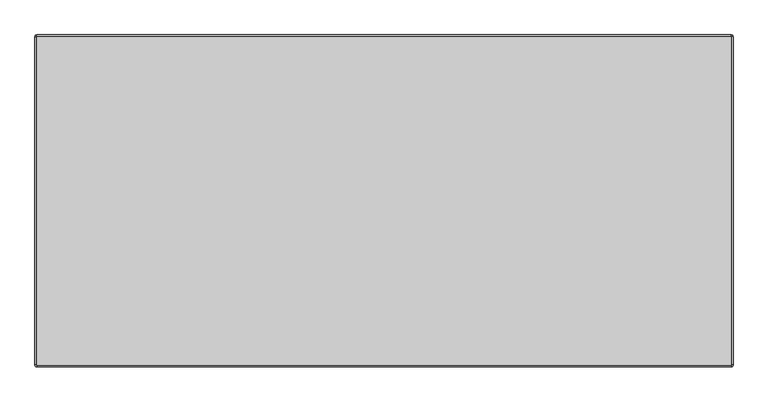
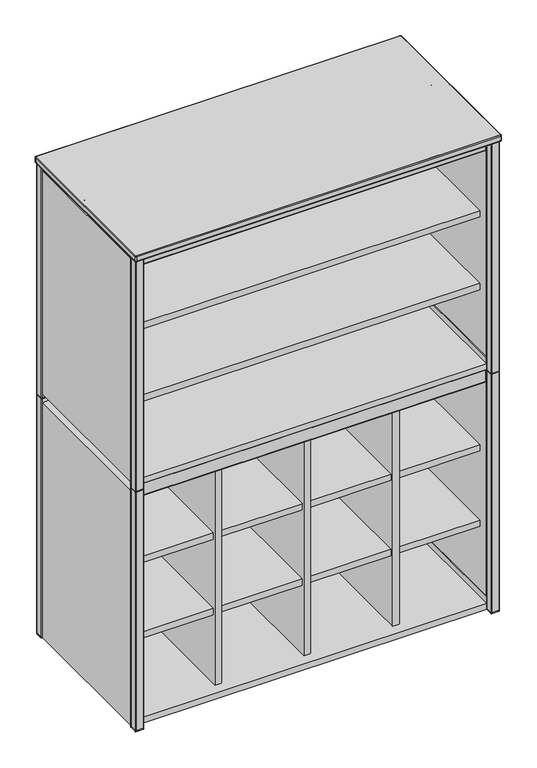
"""IFC4 building model written with IfcOpenShell, lengths in millimetres: furniture geometry, SmithSystem_AM_Storage_Education_Constellate_Stacking_DoubleMidCluster : Upper Shelves + Lower Cubbies."""

from ifc_helpers import new_model, si_unit, point, frame, frame_2d, origin, place, context, project, spatial, polyline, circle_curve, ellipse_curve, trimmed, segment, composite_curve, outline, extrude, source, transform, mapped, element, save
from ifc_brep_helpers import plane_surface, cylinder_surface, revolved_surface, advanced_brep


def furniture_dcc7bf50(model_context):
    return source(origin(), model_context, "Body", "SolidModel", [
        extrude(outline(polyline([(508.0, 218.44), (508.0, -187.96), (-508.0, -187.96), (-508.0, 218.44), (508.0, 218.44)])), frame((0.0, 0.0, 1240.79), z_axis=(0.0, 0.0, 1.0), x_axis=(1.0, 0.0, 0.0)), (0.0, 0.0, 1.0), 19.05),
        extrude(outline(composite_curve([segment(trimmed(circle_curve(frame_2d((-218.44, 1466.85)), 2.54), [point((-218.44, 1464.31))], [point((-220.98, 1466.85))], False, "CARTESIAN"), True, "CONTINUOUS"), segment(polyline([(-220.98, 1466.85), (-220.98, 1504.95), (-195.58, 1504.95), (-195.58, 1466.85)]), True, "CONTINUOUS"), segment(trimmed(circle_curve(frame_2d((-198.12, 1466.85)), 2.54), [point((-195.58, 1466.85))], [point((-198.12, 1464.31))], False, "CARTESIAN"), True, "CONTINUOUS"), segment(polyline([(-198.12, 1464.31), (-218.44, 1464.31)]), True, "CONTINUOUS")], self_intersect=False)), frame((-508.0, 0.0, 0.0), z_axis=(1.0, 0.0, 0.0), x_axis=(0.0, 1.0, 0.0)), (0.0, 0.0, 1.0), 1016.0),
        extrude(outline(composite_curve([segment(polyline([(-220.98, 791.21), (-195.58, 791.21), (-195.58, 755.65)]), True, "CONTINUOUS"), segment(trimmed(circle_curve(frame_2d((-198.12, 755.65)), 2.54), [point((-195.58, 755.65))], [point((-198.12, 753.11))], False, "CARTESIAN"), True, "CONTINUOUS"), segment(polyline([(-198.12, 753.11), (-218.44, 753.11)]), True, "CONTINUOUS"), segment(trimmed(circle_curve(frame_2d((-218.44, 755.65)), 2.54), [point((-218.44, 753.11))], [point((-220.98, 755.65))], False, "CARTESIAN"), True, "CONTINUOUS"), segment(polyline([(-220.98, 755.65), (-220.98, 791.21)]), True, "CONTINUOUS")], self_intersect=False)), frame((-508.0, 0.0, 0.0), z_axis=(1.0, 0.0, 0.0), x_axis=(0.0, 1.0, 0.0)), (0.0, 0.0, 1.0), 1016.0),
        extrude(outline(polyline([(-9.525, -187.96), (-249.2375, -187.96), (-249.2375, 226.06), (-9.525, 226.06), (-9.525, -187.96)])), frame((0.0, 0.0, 521.1191), z_axis=(0.0, 0.0, 1.0), x_axis=(1.0, 0.0, 0.0)), (0.0, 0.0, 1.0), 19.05),
        extrude(outline(polyline([(249.2375, -187.96), (9.525, -187.96), (9.525, 226.06), (249.2375, 226.06), (249.2375, -187.96)])), frame((0.0, 0.0, 521.1191), z_axis=(0.0, 0.0, 1.0), x_axis=(1.0, 0.0, 0.0)), (0.0, 0.0, 1.0), 19.05),
        extrude(outline(polyline([(508.0, -187.96), (268.2875, -187.96), (268.2875, 226.06), (508.0, 226.06), (508.0, -187.96)])), frame((0.0, 0.0, 521.1191), z_axis=(0.0, 0.0, 1.0), x_axis=(1.0, 0.0, 0.0)), (0.0, 0.0, 1.0), 19.05),
        extrude(outline(polyline([(-268.2875, -187.96), (-508.0, -187.96), (-508.0, 226.06), (-268.2875, 226.06), (-268.2875, -187.96)])), frame((0.0, 0.0, 521.1191), z_axis=(0.0, 0.0, 1.0), x_axis=(1.0, 0.0, 0.0)), (0.0, 0.0, 1.0), 19.05),
        extrude(outline(polyline([(508.0, 218.44), (508.0, -187.96), (-508.0, -187.96), (-508.0, 218.44), (508.0, 218.44)])), frame((0.0, 0.0, 1017.27), z_axis=(0.0, 0.0, 1.0), x_axis=(1.0, 0.0, 0.0)), (0.0, 0.0, 1.0), 19.05),
        extrude(outline(polyline([(-505.46, 228.6), (-505.46, 247.65), (505.46, 247.65), (505.46, 228.6), (-505.46, 228.6)])), frame((0.0, 0.0, 793.75), z_axis=(0.0, 0.0, 1.0), x_axis=(1.0, 0.0, 0.0)), (0.0, 0.0, 1.0), 711.2),
        extrude(outline(composite_curve([segment(polyline([(-528.32, -223.52), (-508.0, -223.52)]), True, "CONTINUOUS"), segment(trimmed(circle_curve(frame_2d((-508.0, -226.06)), 2.54), [point((-508.0, -223.52))], [point((-505.46, -226.06))], False, "CARTESIAN"), True, "CONTINUOUS"), segment(polyline([(-505.46, -226.06), (-505.46, -246.38)]), True, "CONTINUOUS"), segment(trimmed(circle_curve(frame_2d((-508.0, -246.38)), 2.54), [point((-505.46, -246.38))], [point((-508.0, -248.92))], False, "CARTESIAN"), True, "CONTINUOUS"), segment(polyline([(-508.0, -248.92), (-528.32, -248.92)]), True, "CONTINUOUS"), segment(trimmed(circle_curve(frame_2d((-528.32, -246.38)), 2.54), [point((-528.32, -248.92))], [point((-530.86, -246.38))], False, "CARTESIAN"), True, "CONTINUOUS"), segment(polyline([(-530.86, -246.38), (-530.86, -226.06)]), True, "CONTINUOUS"), segment(trimmed(circle_curve(frame_2d((-528.32, -226.06)), 2.54), [point((-530.86, -226.06))], [point((-528.32, -223.52))], False, "CARTESIAN"), True, "CONTINUOUS")], self_intersect=False)), frame((0.0, 0.0, 796.29), z_axis=(0.0, 0.0, 1.0), x_axis=(1.0, 0.0, 0.0)), (0.0, 0.0, 1.0), 708.66),
        extrude(outline(composite_curve([segment(polyline([(530.86, 248.92), (530.86, 228.6)]), True, "CONTINUOUS"), segment(trimmed(circle_curve(frame_2d((528.32, 228.6)), 2.54), [point((530.86, 228.6))], [point((528.32, 226.06))], False, "CARTESIAN"), True, "CONTINUOUS"), segment(polyline([(528.32, 226.06), (508.0, 226.06)]), True, "CONTINUOUS"), segment(trimmed(circle_curve(frame_2d((508.0, 228.6)), 2.54), [point((508.0, 226.06))], [point((505.46, 228.6))], False, "CARTESIAN"), True, "CONTINUOUS"), segment(polyline([(505.46, 228.6), (505.46, 248.92)]), True, "CONTINUOUS"), segment(trimmed(circle_curve(frame_2d((508.0, 248.92)), 2.54), [point((505.46, 248.92))], [point((508.0, 251.46))], False, "CARTESIAN"), True, "CONTINUOUS"), segment(polyline([(508.0, 251.46), (528.32, 251.46)]), True, "CONTINUOUS"), segment(trimmed(circle_curve(frame_2d((528.32, 248.92)), 2.54), [point((528.32, 251.46))], [point((530.86, 248.92))], False, "CARTESIAN"), True, "CONTINUOUS")], self_intersect=False)), frame((0.0, 0.0, 796.29), z_axis=(0.0, 0.0, 1.0), x_axis=(1.0, 0.0, 0.0)), (0.0, 0.0, 1.0), 708.66),
        extrude(outline(composite_curve([segment(trimmed(circle_curve(frame_2d((528.32, -226.06)), 2.54), [point((528.32, -223.52))], [point((530.86, -226.06))], False, "CARTESIAN"), True, "CONTINUOUS"), segment(polyline([(530.86, -226.06), (530.86, -246.38)]), True, "CONTINUOUS"), segment(trimmed(circle_curve(frame_2d((528.32, -246.38)), 2.54), [point((530.86, -246.38))], [point((528.32, -248.92))], False, "CARTESIAN"), True, "CONTINUOUS"), segment(polyline([(528.32, -248.92), (508.0, -248.92)]), True, "CONTINUOUS"), segment(trimmed(circle_curve(frame_2d((508.0, -246.38)), 2.54), [point((508.0, -248.92))], [point((505.46, -246.38))], False, "CARTESIAN"), True, "CONTINUOUS"), segment(polyline([(505.46, -246.38), (505.46, -226.06)]), True, "CONTINUOUS"), segment(trimmed(circle_curve(frame_2d((508.0, -226.06)), 2.54), [point((505.46, -226.06))], [point((508.0, -223.52))], False, "CARTESIAN"), True, "CONTINUOUS"), segment(polyline([(508.0, -223.52), (528.32, -223.52)]), True, "CONTINUOUS")], self_intersect=False)), frame((0.0, 0.0, 796.29), z_axis=(0.0, 0.0, 1.0), x_axis=(1.0, 0.0, 0.0)), (0.0, 0.0, 1.0), 708.66),
        extrude(outline(composite_curve([segment(trimmed(circle_curve(frame_2d((-528.32, 248.92)), 2.54), [point((-530.86, 248.92))], [point((-528.32, 251.46))], False, "CARTESIAN"), True, "CONTINUOUS"), segment(polyline([(-528.32, 251.46), (-508.0, 251.46)]), True, "CONTINUOUS"), segment(trimmed(circle_curve(frame_2d((-508.0, 248.92)), 2.54), [point((-508.0, 251.46))], [point((-505.46, 248.92))], False, "CARTESIAN"), True, "CONTINUOUS"), segment(polyline([(-505.46, 248.92), (-505.46, 228.6)]), True, "CONTINUOUS"), segment(trimmed(circle_curve(frame_2d((-508.0, 228.6)), 2.54), [point((-505.46, 228.6))], [point((-508.0, 226.06))], False, "CARTESIAN"), True, "CONTINUOUS"), segment(polyline([(-508.0, 226.06), (-528.32, 226.06)]), True, "CONTINUOUS"), segment(trimmed(circle_curve(frame_2d((-528.32, 228.6)), 2.54), [point((-528.32, 226.06))], [point((-530.86, 228.6))], False, "CARTESIAN"), True, "CONTINUOUS"), segment(polyline([(-530.86, 228.6), (-530.86, 248.92)]), True, "CONTINUOUS")], self_intersect=False)), frame((0.0, 0.0, 796.29), z_axis=(0.0, 0.0, 1.0), x_axis=(1.0, 0.0, 0.0)), (0.0, 0.0, 1.0), 708.66),
        extrude(outline(composite_curve([segment(polyline([(-528.32, -223.52), (-508.0, -223.52)]), True, "CONTINUOUS"), segment(trimmed(circle_curve(frame_2d((-508.0, -226.06)), 2.54), [point((-508.0, -223.52))], [point((-505.46, -226.06))], False, "CARTESIAN"), True, "CONTINUOUS"), segment(polyline([(-505.46, -226.06), (-505.46, -246.38)]), True, "CONTINUOUS"), segment(trimmed(circle_curve(frame_2d((-508.0, -246.38)), 2.54), [point((-505.46, -246.38))], [point((-508.0, -248.92))], False, "CARTESIAN"), True, "CONTINUOUS"), segment(polyline([(-508.0, -248.92), (-528.32, -248.92)]), True, "CONTINUOUS"), segment(trimmed(circle_curve(frame_2d((-528.32, -246.38)), 2.54), [point((-528.32, -248.92))], [point((-530.86, -246.38))], False, "CARTESIAN"), True, "CONTINUOUS"), segment(polyline([(-530.86, -246.38), (-530.86, -226.06)]), True, "CONTINUOUS"), segment(trimmed(circle_curve(frame_2d((-528.32, -226.06)), 2.54), [point((-530.86, -226.06))], [point((-528.32, -223.52))], False, "CARTESIAN"), True, "CONTINUOUS")], self_intersect=False)), frame((0.0, 0.0, 793.75), z_axis=(0.0, 0.0, 1.0), x_axis=(1.0, 0.0, 0.0)), (0.0, 0.0, 1.0), 2.54),
        extrude(outline(composite_curve([segment(polyline([(530.86, 248.92), (530.86, 228.6)]), True, "CONTINUOUS"), segment(trimmed(circle_curve(frame_2d((528.32, 228.6)), 2.54), [point((530.86, 228.6))], [point((528.32, 226.06))], False, "CARTESIAN"), True, "CONTINUOUS"), segment(polyline([(528.32, 226.06), (508.0, 226.06)]), True, "CONTINUOUS"), segment(trimmed(circle_curve(frame_2d((508.0, 228.6)), 2.54), [point((508.0, 226.06))], [point((505.46, 228.6))], False, "CARTESIAN"), True, "CONTINUOUS"), segment(polyline([(505.46, 228.6), (505.46, 248.92)]), True, "CONTINUOUS"), segment(trimmed(circle_curve(frame_2d((508.0, 248.92)), 2.54), [point((505.46, 248.92))], [point((508.0, 251.46))], False, "CARTESIAN"), True, "CONTINUOUS"), segment(polyline([(508.0, 251.46), (528.32, 251.46)]), True, "CONTINUOUS"), segment(trimmed(circle_curve(frame_2d((528.32, 248.92)), 2.54), [point((528.32, 251.46))], [point((530.86, 248.92))], False, "CARTESIAN"), True, "CONTINUOUS")], self_intersect=False)), frame((0.0, 0.0, 793.75), z_axis=(0.0, 0.0, 1.0), x_axis=(1.0, 0.0, 0.0)), (0.0, 0.0, 1.0), 2.54),
        extrude(outline(composite_curve([segment(trimmed(circle_curve(frame_2d((528.32, -226.06)), 2.54), [point((528.32, -223.52))], [point((530.86, -226.06))], False, "CARTESIAN"), True, "CONTINUOUS"), segment(polyline([(530.86, -226.06), (530.86, -246.38)]), True, "CONTINUOUS"), segment(trimmed(circle_curve(frame_2d((528.32, -246.38)), 2.54), [point((530.86, -246.38))], [point((528.32, -248.92))], False, "CARTESIAN"), True, "CONTINUOUS"), segment(polyline([(528.32, -248.92), (508.0, -248.92)]), True, "CONTINUOUS"), segment(trimmed(circle_curve(frame_2d((508.0, -246.38)), 2.54), [point((508.0, -248.92))], [point((505.46, -246.38))], False, "CARTESIAN"), True, "CONTINUOUS"), segment(polyline([(505.46, -246.38), (505.46, -226.06)]), True, "CONTINUOUS"), segment(trimmed(circle_curve(frame_2d((508.0, -226.06)), 2.54), [point((505.46, -226.06))], [point((508.0, -223.52))], False, "CARTESIAN"), True, "CONTINUOUS"), segment(polyline([(508.0, -223.52), (528.32, -223.52)]), True, "CONTINUOUS")], self_intersect=False)), frame((0.0, 0.0, 793.75), z_axis=(0.0, 0.0, 1.0), x_axis=(1.0, 0.0, 0.0)), (0.0, 0.0, 1.0), 2.54),
        extrude(outline(composite_curve([segment(trimmed(circle_curve(frame_2d((-528.32, 248.92)), 2.54), [point((-530.86, 248.92))], [point((-528.32, 251.46))], False, "CARTESIAN"), True, "CONTINUOUS"), segment(polyline([(-528.32, 251.46), (-508.0, 251.46)]), True, "CONTINUOUS"), segment(trimmed(circle_curve(frame_2d((-508.0, 248.92)), 2.54), [point((-508.0, 251.46))], [point((-505.46, 248.92))], False, "CARTESIAN"), True, "CONTINUOUS"), segment(polyline([(-505.46, 248.92), (-505.46, 228.6)]), True, "CONTINUOUS"), segment(trimmed(circle_curve(frame_2d((-508.0, 228.6)), 2.54), [point((-505.46, 228.6))], [point((-508.0, 226.06))], False, "CARTESIAN"), True, "CONTINUOUS"), segment(polyline([(-508.0, 226.06), (-528.32, 226.06)]), True, "CONTINUOUS"), segment(trimmed(circle_curve(frame_2d((-528.32, 228.6)), 2.54), [point((-528.32, 226.06))], [point((-530.86, 228.6))], False, "CARTESIAN"), True, "CONTINUOUS"), segment(polyline([(-530.86, 228.6), (-530.86, 248.92)]), True, "CONTINUOUS")], self_intersect=False)), frame((0.0, 0.0, 793.75), z_axis=(0.0, 0.0, 1.0), x_axis=(1.0, 0.0, 0.0)), (0.0, 0.0, 1.0), 2.54),
        extrude(outline(composite_curve([segment(polyline([(-530.86, -250.952), (-530.86, 250.952)]), True, "CONTINUOUS"), segment(trimmed(circle_curve(frame_2d((-530.352, 250.952)), 0.508), [point((-530.86, 250.952))], [point((-530.352, 251.46))], False, "CARTESIAN"), True, "CONTINUOUS"), segment(polyline([(-530.352, 251.46), (530.352, 251.46)]), True, "CONTINUOUS"), segment(trimmed(circle_curve(frame_2d((530.352, 250.952)), 0.508), [point((530.352, 251.46))], [point((530.86, 250.952))], False, "CARTESIAN"), True, "CONTINUOUS"), segment(polyline([(530.86, 250.952), (530.86, -250.952)]), True, "CONTINUOUS"), segment(trimmed(circle_curve(frame_2d((530.352, -250.952)), 0.508), [point((530.86, -250.952))], [point((530.352, -251.46))], False, "CARTESIAN"), True, "CONTINUOUS"), segment(polyline([(530.352, -251.46), (-530.352, -251.46)]), True, "CONTINUOUS"), segment(trimmed(circle_curve(frame_2d((-530.352, -250.952)), 0.508), [point((-530.352, -251.46))], [point((-530.86, -250.952))], False, "CARTESIAN"), True, "CONTINUOUS")], self_intersect=False)), frame((0.0, 0.0, 1504.95), z_axis=(0.0, 0.0, 1.0), x_axis=(1.0, 0.0, 0.0)), (0.0, 0.0, 1.0), 19.05),
        advanced_brep(
        [(-530.352, -251.46, 1524.0), (-530.86, -250.952, 1524.0), (-533.4, -250.952, 1521.46), (-530.352, -254.0, 1521.46), (-530.352, -251.46, 1504.95), (-530.86, -250.952, 1504.95), (-530.352, -254.0, 1507.49), (-533.4, -250.952, 1507.49), (530.352, -254.0, 1521.46), (530.352, -251.46, 1524.0), (530.352, -251.46, 1504.95), (530.352, -254.0, 1507.49), (530.86, -250.952, 1524.0), (533.4, -250.952, 1521.46), (530.86, -250.952, 1504.95), (533.4, -250.952, 1507.49), (533.4, 250.952, 1521.46), (530.86, 250.952, 1524.0), (530.86, 250.952, 1504.95), (533.4, 250.952, 1507.49), (530.352, 251.46, 1524.0), (530.352, 254.0, 1521.46), (530.352, 251.46, 1504.95), (530.352, 254.0, 1507.49), (-530.352, 254.0, 1521.46), (-530.352, 251.46, 1524.0), (-530.352, 251.46, 1504.95), (-530.352, 254.0, 1507.49), (-530.86, 250.952, 1524.0), (-533.4, 250.952, 1521.46), (-530.86, 250.952, 1504.95), (-533.4, 250.952, 1507.49)],
        [
            (0, 1, circle_curve(frame((-530.352, -250.952, 1524.0), z_axis=(0.0, 0.0, -1.0), x_axis=(-1.0, 0.0, 0.0)), 0.508)),
            (1, 2, circle_curve(frame((-530.86, -250.952, 1521.46), z_axis=(0.0, -1.0, 0.0), x_axis=(1.0, 0.0, 0.0)), 2.54)),
            (2, 3, circle_curve(frame((-530.352, -250.952, 1521.46), z_axis=(0.0, 0.0, 1.0), x_axis=(-1.0, 0.0, 0.0)), 3.048)),
            (3, 0, circle_curve(frame((-530.352, -251.46, 1521.46), z_axis=(-1.0, 0.0, 0.0), x_axis=(0.0, 1.0, 0.0)), 2.54)),
            (4, 5, circle_curve(frame((-530.352, -250.952, 1504.95), z_axis=(0.0, 0.0, -1.0), x_axis=(-1.0, 0.0, 0.0)), 0.508)),
            (5, 1),
            (0, 4),
            (6, 7, circle_curve(frame((-530.352, -250.952, 1507.49), z_axis=(0.0, 0.0, -1.0), x_axis=(-1.0, 0.0, 0.0)), 3.048)),
            (7, 5, circle_curve(frame((-530.86, -250.952, 1507.49), z_axis=(0.0, -1.0, 0.0), x_axis=(1.0, 0.0, 0.0)), 2.54)),
            (4, 6, circle_curve(frame((-530.352, -251.46, 1507.49), z_axis=(-1.0, 0.0, 0.0), x_axis=(0.0, 1.0, 0.0)), 2.54)),
            (2, 7),
            (6, 3),
            (3, 8),
            (8, 9, circle_curve(frame((530.352, -251.46, 1521.46), z_axis=(-1.0, 0.0, 0.0), x_axis=(0.0, 1.0, 0.0)), 2.54)),
            (9, 0),
            (9, 10),
            (10, 4),
            (10, 11, circle_curve(frame((530.352, -251.46, 1507.49), z_axis=(-1.0, 0.0, 0.0), x_axis=(0.0, 1.0, 0.0)), 2.54)),
            (11, 6),
            (11, 8),
            (12, 9, circle_curve(frame((530.352, -250.952, 1524.0), z_axis=(0.0, 0.0, -1.0), x_axis=(0.0, -1.0, 0.0)), 0.508)),
            (8, 13, circle_curve(frame((530.352, -250.952, 1521.46), z_axis=(0.0, 0.0, 1.0), x_axis=(0.0, -1.0, 0.0)), 3.048)),
            (13, 12, circle_curve(frame((530.86, -250.952, 1521.46), z_axis=(0.0, -1.0, 0.0), x_axis=(-1.0, 0.0, 0.0)), 2.54)),
            (14, 10, circle_curve(frame((530.352, -250.952, 1504.95), z_axis=(0.0, 0.0, -1.0), x_axis=(0.0, -1.0, 0.0)), 0.508)),
            (12, 14),
            (15, 11, circle_curve(frame((530.352, -250.952, 1507.49), z_axis=(0.0, 0.0, -1.0), x_axis=(0.0, -1.0, 0.0)), 3.048)),
            (14, 15, circle_curve(frame((530.86, -250.952, 1507.49), z_axis=(0.0, -1.0, 0.0), x_axis=(-1.0, 0.0, 0.0)), 2.54)),
            (15, 13),
            (13, 16),
            (16, 17, circle_curve(frame((530.86, 250.952, 1521.46), z_axis=(0.0, -1.0, 0.0), x_axis=(-1.0, 0.0, 0.0)), 2.54)),
            (17, 12),
            (17, 18),
            (18, 14),
            (18, 19, circle_curve(frame((530.86, 250.952, 1507.49), z_axis=(0.0, -1.0, 0.0), x_axis=(-1.0, 0.0, 0.0)), 2.54)),
            (19, 15),
            (19, 16),
            (20, 17, circle_curve(frame((530.352, 250.952, 1524.0), z_axis=(0.0, 0.0, -1.0), x_axis=(1.0, 0.0, 0.0)), 0.508)),
            (16, 21, circle_curve(frame((530.352, 250.952, 1521.46), z_axis=(0.0, 0.0, 1.0), x_axis=(1.0, 0.0, 0.0)), 3.048)),
            (21, 20, circle_curve(frame((530.352, 251.46, 1521.46), z_axis=(1.0, 0.0, 0.0), x_axis=(0.0, -1.0, 0.0)), 2.54)),
            (22, 18, circle_curve(frame((530.352, 250.952, 1504.95), z_axis=(0.0, 0.0, -1.0), x_axis=(1.0, 0.0, 0.0)), 0.508)),
            (20, 22),
            (23, 19, circle_curve(frame((530.352, 250.952, 1507.49), z_axis=(0.0, 0.0, -1.0), x_axis=(1.0, 0.0, 0.0)), 3.048)),
            (22, 23, circle_curve(frame((530.352, 251.46, 1507.49), z_axis=(1.0, 0.0, 0.0), x_axis=(0.0, -1.0, 0.0)), 2.54)),
            (23, 21),
            (21, 24),
            (24, 25, circle_curve(frame((-530.352, 251.46, 1521.46), z_axis=(1.0, 0.0, 0.0), x_axis=(0.0, -1.0, 0.0)), 2.54)),
            (25, 20),
            (25, 26),
            (26, 22),
            (26, 27, circle_curve(frame((-530.352, 251.46, 1507.49), z_axis=(1.0, 0.0, 0.0), x_axis=(0.0, -1.0, 0.0)), 2.54)),
            (27, 23),
            (27, 24),
            (28, 25, circle_curve(frame((-530.352, 250.952, 1524.0), z_axis=(0.0, 0.0, -1.0), x_axis=(0.0, 1.0, 0.0)), 0.508)),
            (24, 29, circle_curve(frame((-530.352, 250.952, 1521.46), z_axis=(0.0, 0.0, 1.0), x_axis=(0.0, 1.0, 0.0)), 3.048)),
            (29, 28, circle_curve(frame((-530.86, 250.952, 1521.46), z_axis=(0.0, 1.0, 0.0), x_axis=(1.0, 0.0, 0.0)), 2.54)),
            (30, 26, circle_curve(frame((-530.352, 250.952, 1504.95), z_axis=(0.0, 0.0, -1.0), x_axis=(0.0, 1.0, 0.0)), 0.508)),
            (28, 30),
            (31, 27, circle_curve(frame((-530.352, 250.952, 1507.49), z_axis=(0.0, 0.0, -1.0), x_axis=(0.0, 1.0, 0.0)), 3.048)),
            (30, 31, circle_curve(frame((-530.86, 250.952, 1507.49), z_axis=(0.0, 1.0, 0.0), x_axis=(1.0, 0.0, 0.0)), 2.54)),
            (31, 29),
            (29, 2),
            (1, 28),
            (5, 30),
            (7, 31),
        ],
        [
            revolved_surface(trimmed(ellipse_curve(frame((-530.86, -250.952, 1521.46), z_axis=(0.0, 1.0, 0.0), x_axis=(1.0, 0.0, 0.0)), 2.54, 2.54), [point((-533.4, -250.952, 1521.46))], [point((-530.86, -250.952, 1524.0))], True, "CARTESIAN"), (-530.352, -250.952, 0.0), (0.0, 0.0, 1.0)),
            revolved_surface(polyline([(-530.86, -250.952, 1524.0), (-530.86, -250.952, 1504.95)]), (-530.352, -250.952, 0.0), (0.0, 0.0, 1.0)),
            revolved_surface(trimmed(ellipse_curve(frame((-530.86, -250.952, 1507.49), z_axis=(0.0, 1.0, 0.0), x_axis=(1.0, 0.0, 0.0)), 2.54, 2.54), [point((-530.86, -250.952, 1504.95))], [point((-533.4, -250.952, 1507.49))], True, "CARTESIAN"), (-530.352, -250.952, 0.0), (0.0, 0.0, 1.0)),
            cylinder_surface(frame((-530.352, -250.952, 0.0), z_axis=(0.0, 0.0, 1.0), x_axis=(-1.0, 0.0, 0.0)), 3.048),
            cylinder_surface(frame((-530.352, -251.46, 1521.46), z_axis=(-1.0, 0.0, 0.0), x_axis=(0.0, 1.0, 0.0)), 2.54),
            plane_surface(frame((-530.352, -251.46, 1524.0), z_axis=(0.0, 1.0, 0.0), x_axis=(1.0, 0.0, 0.0))),
            cylinder_surface(frame((-530.352, -251.46, 1507.49), z_axis=(-1.0, 0.0, 0.0), x_axis=(0.0, 1.0, 0.0)), 2.54),
            plane_surface(frame((-530.352, -254.0, 1507.49), z_axis=(0.0, -1.0, 0.0), x_axis=(1.0, 0.0, 0.0))),
            revolved_surface(trimmed(ellipse_curve(frame((530.352, -251.46, 1521.46), z_axis=(-1.0, 0.0, 0.0), x_axis=(0.0, 1.0, 0.0)), 2.54, 2.54), [point((530.352, -254.0, 1521.46))], [point((530.352, -251.46, 1524.0))], True, "CARTESIAN"), (530.352, -250.952, 0.0), (0.0, 0.0, 1.0)),
            revolved_surface(polyline([(530.352, -251.46, 1524.0), (530.352, -251.46, 1504.95)]), (530.352, -250.952, 0.0), (0.0, 0.0, 1.0)),
            revolved_surface(trimmed(ellipse_curve(frame((530.352, -251.46, 1507.49), z_axis=(-1.0, 0.0, 0.0), x_axis=(0.0, 1.0, 0.0)), 2.54, 2.54), [point((530.352, -251.46, 1504.95))], [point((530.352, -254.0, 1507.49))], True, "CARTESIAN"), (530.352, -250.952, 0.0), (0.0, 0.0, 1.0)),
            cylinder_surface(frame((530.352, -250.952, 0.0), z_axis=(0.0, 0.0, 1.0), x_axis=(0.0, -1.0, 0.0)), 3.048),
            cylinder_surface(frame((530.86, -250.952, 1521.46), z_axis=(0.0, -1.0, 0.0), x_axis=(-1.0, 0.0, 0.0)), 2.54),
            plane_surface(frame((530.86, -250.952, 1524.0), z_axis=(-1.0, 0.0, 0.0), x_axis=(0.0, 1.0, 0.0))),
            cylinder_surface(frame((530.86, -250.952, 1507.49), z_axis=(0.0, -1.0, 0.0), x_axis=(-1.0, 0.0, 0.0)), 2.54),
            plane_surface(frame((533.4, -250.952, 1507.49), z_axis=(1.0, 0.0, 0.0), x_axis=(0.0, 1.0, 0.0))),
            revolved_surface(trimmed(ellipse_curve(frame((530.86, 250.952, 1521.46), z_axis=(0.0, -1.0, 0.0), x_axis=(-1.0, 0.0, 0.0)), 2.54, 2.54), [point((533.4, 250.952, 1521.46))], [point((530.86, 250.952, 1524.0))], True, "CARTESIAN"), (530.352, 250.952, 0.0), (0.0, 0.0, 1.0)),
            revolved_surface(polyline([(530.86, 250.952, 1524.0), (530.86, 250.952, 1504.95)]), (530.352, 250.952, 0.0), (0.0, 0.0, 1.0)),
            revolved_surface(trimmed(ellipse_curve(frame((530.86, 250.952, 1507.49), z_axis=(0.0, -1.0, 0.0), x_axis=(-1.0, 0.0, 0.0)), 2.54, 2.54), [point((530.86, 250.952, 1504.95))], [point((533.4, 250.952, 1507.49))], True, "CARTESIAN"), (530.352, 250.952, 0.0), (0.0, 0.0, 1.0)),
            cylinder_surface(frame((530.352, 250.952, 0.0), z_axis=(0.0, 0.0, 1.0), x_axis=(1.0, 0.0, 0.0)), 3.048),
            cylinder_surface(frame((530.352, 251.46, 1521.46), z_axis=(1.0, 0.0, 0.0), x_axis=(0.0, -1.0, 0.0)), 2.54),
            plane_surface(frame((530.352, 251.46, 1524.0), z_axis=(0.0, -1.0, 0.0), x_axis=(-1.0, 0.0, 0.0))),
            cylinder_surface(frame((530.352, 251.46, 1507.49), z_axis=(1.0, 0.0, 0.0), x_axis=(0.0, -1.0, 0.0)), 2.54),
            plane_surface(frame((530.352, 254.0, 1507.49), z_axis=(0.0, 1.0, 0.0), x_axis=(-1.0, 0.0, 0.0))),
            revolved_surface(trimmed(ellipse_curve(frame((-530.352, 251.46, 1521.46), z_axis=(1.0, 0.0, 0.0), x_axis=(0.0, -1.0, 0.0)), 2.54, 2.54), [point((-530.352, 254.0, 1521.46))], [point((-530.352, 251.46, 1524.0))], True, "CARTESIAN"), (-530.352, 250.952, 0.0), (0.0, 0.0, 1.0)),
            revolved_surface(polyline([(-530.352, 251.46, 1524.0), (-530.352, 251.46, 1504.95)]), (-530.352, 250.952, 0.0), (0.0, 0.0, 1.0)),
            revolved_surface(trimmed(ellipse_curve(frame((-530.352, 251.46, 1507.49), z_axis=(1.0, 0.0, 0.0), x_axis=(0.0, -1.0, 0.0)), 2.54, 2.54), [point((-530.352, 251.46, 1504.95))], [point((-530.352, 254.0, 1507.49))], True, "CARTESIAN"), (-530.352, 250.952, 0.0), (0.0, 0.0, 1.0)),
            cylinder_surface(frame((-530.352, 250.952, 0.0), z_axis=(0.0, 0.0, 1.0), x_axis=(0.0, 1.0, 0.0)), 3.048),
            cylinder_surface(frame((-530.86, 250.952, 1521.46), z_axis=(0.0, 1.0, 0.0), x_axis=(1.0, 0.0, 0.0)), 2.54),
            plane_surface(frame((-530.86, 250.952, 1524.0), z_axis=(1.0, 0.0, 0.0), x_axis=(0.0, -1.0, 0.0))),
            cylinder_surface(frame((-530.86, 250.952, 1507.49), z_axis=(0.0, 1.0, 0.0), x_axis=(1.0, 0.0, 0.0)), 2.54),
            plane_surface(frame((-533.4, 250.952, 1507.49), z_axis=(-1.0, 0.0, 0.0), x_axis=(0.0, -1.0, 0.0))),
        ],
        [
            (0, [[1, 2, 3, 4]]),
            (1, [[5, 6, -1, 7]]),
            (2, [[8, 9, -5, 10]]),
            (3, [[-3, 11, -8, 12]]),
            (4, [[-4, 13, 14, 15]]),
            (5, [[-7, -15, 16, 17]]),
            (6, [[-10, -17, 18, 19]]),
            (7, [[-12, -19, 20, -13]]),
            (8, [[21, -14, 22, 23]]),
            (9, [[24, -16, -21, 25]]),
            (10, [[26, -18, -24, 27]]),
            (11, [[-22, -20, -26, 28]]),
            (12, [[-23, 29, 30, 31]]),
            (13, [[-25, -31, 32, 33]]),
            (14, [[-27, -33, 34, 35]]),
            (15, [[-28, -35, 36, -29]]),
            (16, [[37, -30, 38, 39]]),
            (17, [[40, -32, -37, 41]]),
            (18, [[42, -34, -40, 43]]),
            (19, [[-38, -36, -42, 44]]),
            (20, [[-39, 45, 46, 47]]),
            (21, [[-41, -47, 48, 49]]),
            (22, [[-43, -49, 50, 51]]),
            (23, [[-44, -51, 52, -45]]),
            (24, [[53, -46, 54, 55]]),
            (25, [[56, -48, -53, 57]]),
            (26, [[58, -50, -56, 59]]),
            (27, [[-54, -52, -58, 60]]),
            (28, [[-55, 61, -2, 62]]),
            (29, [[-57, -62, -6, 63]]),
            (30, [[-59, -63, -9, 64]]),
            (31, [[-60, -64, -11, -61]]),
        ],
    ),
        extrude(outline(polyline([(-223.52, 753.11), (-223.52, 793.75), (226.06, 793.75), (226.06, 753.11), (-223.52, 753.11)]), holes=[composite_curve([segment(trimmed(circle_curve(frame_2d((-17.78, 786.13)), 5.08), [point((-17.78, 791.21))], [point((-17.78, 781.05))], True, "CARTESIAN"), True, "CONTINUOUS"), segment(polyline([(-17.78, 781.05), (48.26, 781.05)]), True, "CONTINUOUS"), segment(trimmed(circle_curve(frame_2d((48.26, 786.13)), 5.08), [point((48.26, 781.05))], [point((48.26, 791.21))], True, "CARTESIAN"), True, "CONTINUOUS"), segment(polyline([(48.26, 791.21), (-17.78, 791.21)]), True, "CONTINUOUS")], self_intersect=False), composite_curve([segment(trimmed(circle_curve(frame_2d((132.08, 786.13)), 5.08), [point((132.08, 791.21))], [point((132.08, 781.05))], True, "CARTESIAN"), True, "CONTINUOUS"), segment(polyline([(132.08, 781.05), (198.12, 781.05)]), True, "CONTINUOUS"), segment(trimmed(circle_curve(frame_2d((198.12, 786.13)), 5.08), [point((198.12, 781.05))], [point((198.12, 791.21))], True, "CARTESIAN"), True, "CONTINUOUS"), segment(polyline([(198.12, 791.21), (132.08, 791.21)]), True, "CONTINUOUS")], self_intersect=False), composite_curve([segment(trimmed(circle_curve(frame_2d((-167.64, 786.13)), 5.08), [point((-167.64, 791.21))], [point((-167.64, 781.05))], True, "CARTESIAN"), True, "CONTINUOUS"), segment(polyline([(-167.64, 781.05), (-101.6, 781.05)]), True, "CONTINUOUS"), segment(trimmed(circle_curve(frame_2d((-101.6, 786.13)), 5.08), [point((-101.6, 781.05))], [point((-101.6, 791.21))], True, "CARTESIAN"), True, "CONTINUOUS"), segment(polyline([(-101.6, 791.21), (-167.64, 791.21)]), True, "CONTINUOUS")], self_intersect=False)]), frame((-508.0, 0.0, 0.0), z_axis=(1.0, 0.0, 0.0), x_axis=(0.0, 1.0, 0.0)), (0.0, 0.0, 1.0), 2.54),
        extrude(outline(polyline([(-223.52, 1464.31), (-223.52, 1504.95), (226.06, 1504.95), (226.06, 1464.31), (-223.52, 1464.31)]), holes=[composite_curve([segment(trimmed(circle_curve(frame_2d((-17.78, 1497.33)), 5.08), [point((-17.78, 1502.41))], [point((-17.78, 1492.25))], True, "CARTESIAN"), True, "CONTINUOUS"), segment(polyline([(-17.78, 1492.25), (48.26, 1492.25)]), True, "CONTINUOUS"), segment(trimmed(circle_curve(frame_2d((48.26, 1497.33)), 5.08), [point((48.26, 1492.25))], [point((48.26, 1502.41))], True, "CARTESIAN"), True, "CONTINUOUS"), segment(polyline([(48.26, 1502.41), (-17.78, 1502.41)]), True, "CONTINUOUS")], self_intersect=False), composite_curve([segment(trimmed(circle_curve(frame_2d((132.08, 1497.33)), 5.08), [point((132.08, 1502.41))], [point((132.08, 1492.25))], True, "CARTESIAN"), True, "CONTINUOUS"), segment(polyline([(132.08, 1492.25), (198.12, 1492.25)]), True, "CONTINUOUS"), segment(trimmed(circle_curve(frame_2d((198.12, 1497.33)), 5.08), [point((198.12, 1492.25))], [point((198.12, 1502.41))], True, "CARTESIAN"), True, "CONTINUOUS"), segment(polyline([(198.12, 1502.41), (132.08, 1502.41)]), True, "CONTINUOUS")], self_intersect=False), composite_curve([segment(trimmed(circle_curve(frame_2d((-167.64, 1497.33)), 5.08), [point((-167.64, 1502.41))], [point((-167.64, 1492.25))], True, "CARTESIAN"), True, "CONTINUOUS"), segment(polyline([(-167.64, 1492.25), (-101.6, 1492.25)]), True, "CONTINUOUS"), segment(trimmed(circle_curve(frame_2d((-101.6, 1497.33)), 5.08), [point((-101.6, 1492.25))], [point((-101.6, 1502.41))], True, "CARTESIAN"), True, "CONTINUOUS"), segment(polyline([(-101.6, 1502.41), (-167.64, 1502.41)]), True, "CONTINUOUS")], self_intersect=False)]), frame((-508.0, 0.0, 0.0), z_axis=(1.0, 0.0, 0.0), x_axis=(0.0, 1.0, 0.0)), (0.0, 0.0, 1.0), 2.54),
        extrude(outline(polyline([(-223.52, 793.75), (226.06, 793.75), (226.06, 753.11), (-223.52, 753.11), (-223.52, 793.75)]), holes=[composite_curve([segment(trimmed(circle_curve(frame_2d((132.08, 786.13)), 5.08), [point((132.08, 791.21))], [point((132.08, 781.05))], True, "CARTESIAN"), True, "CONTINUOUS"), segment(polyline([(132.08, 781.05), (198.12, 781.05)]), True, "CONTINUOUS"), segment(trimmed(circle_curve(frame_2d((198.12, 786.13)), 5.08), [point((198.12, 781.05))], [point((198.12, 791.21))], True, "CARTESIAN"), True, "CONTINUOUS"), segment(polyline([(198.12, 791.21), (132.08, 791.21)]), True, "CONTINUOUS")], self_intersect=False), composite_curve([segment(trimmed(circle_curve(frame_2d((-17.78, 786.13)), 5.08), [point((-17.78, 791.21))], [point((-17.78, 781.05))], True, "CARTESIAN"), True, "CONTINUOUS"), segment(polyline([(-17.78, 781.05), (48.26, 781.05)]), True, "CONTINUOUS"), segment(trimmed(circle_curve(frame_2d((48.26, 786.13)), 5.08), [point((48.26, 781.05))], [point((48.26, 791.21))], True, "CARTESIAN"), True, "CONTINUOUS"), segment(polyline([(48.26, 791.21), (-17.78, 791.21)]), True, "CONTINUOUS")], self_intersect=False), composite_curve([segment(trimmed(circle_curve(frame_2d((-167.64, 786.13)), 5.08), [point((-167.64, 791.21))], [point((-167.64, 781.05))], True, "CARTESIAN"), True, "CONTINUOUS"), segment(polyline([(-167.64, 781.05), (-101.6, 781.05)]), True, "CONTINUOUS"), segment(trimmed(circle_curve(frame_2d((-101.6, 786.13)), 5.08), [point((-101.6, 781.05))], [point((-101.6, 791.21))], True, "CARTESIAN"), True, "CONTINUOUS"), segment(polyline([(-101.6, 791.21), (-167.64, 791.21)]), True, "CONTINUOUS")], self_intersect=False)]), frame((505.46, 0.0, 0.0), z_axis=(1.0, 0.0, 0.0), x_axis=(0.0, 1.0, 0.0)), (0.0, 0.0, 1.0), 2.54),
        extrude(outline(polyline([(-223.52, 1504.95), (226.06, 1504.95), (226.06, 1464.31), (-223.52, 1464.31), (-223.52, 1504.95)]), holes=[composite_curve([segment(trimmed(circle_curve(frame_2d((132.08, 1497.33)), 5.08), [point((132.08, 1502.41))], [point((132.08, 1492.25))], True, "CARTESIAN"), True, "CONTINUOUS"), segment(polyline([(132.08, 1492.25), (198.12, 1492.25)]), True, "CONTINUOUS"), segment(trimmed(circle_curve(frame_2d((198.12, 1497.33)), 5.08), [point((198.12, 1492.25))], [point((198.12, 1502.41))], True, "CARTESIAN"), True, "CONTINUOUS"), segment(polyline([(198.12, 1502.41), (132.08, 1502.41)]), True, "CONTINUOUS")], self_intersect=False), composite_curve([segment(trimmed(circle_curve(frame_2d((-17.78, 1497.33)), 5.08), [point((-17.78, 1502.41))], [point((-17.78, 1492.25))], True, "CARTESIAN"), True, "CONTINUOUS"), segment(polyline([(-17.78, 1492.25), (48.26, 1492.25)]), True, "CONTINUOUS"), segment(trimmed(circle_curve(frame_2d((48.26, 1497.33)), 5.08), [point((48.26, 1492.25))], [point((48.26, 1502.41))], True, "CARTESIAN"), True, "CONTINUOUS"), segment(polyline([(48.26, 1502.41), (-17.78, 1502.41)]), True, "CONTINUOUS")], self_intersect=False), composite_curve([segment(trimmed(circle_curve(frame_2d((-167.64, 1497.33)), 5.08), [point((-167.64, 1502.41))], [point((-167.64, 1492.25))], True, "CARTESIAN"), True, "CONTINUOUS"), segment(polyline([(-167.64, 1492.25), (-101.6, 1492.25)]), True, "CONTINUOUS"), segment(trimmed(circle_curve(frame_2d((-101.6, 1497.33)), 5.08), [point((-101.6, 1492.25))], [point((-101.6, 1502.41))], True, "CARTESIAN"), True, "CONTINUOUS"), segment(polyline([(-101.6, 1502.41), (-167.64, 1502.41)]), True, "CONTINUOUS")], self_intersect=False)]), frame((505.46, 0.0, 0.0), z_axis=(1.0, 0.0, 0.0), x_axis=(0.0, 1.0, 0.0)), (0.0, 0.0, 1.0), 2.54),
        extrude(outline(polyline([(-9.525, -187.96), (-249.2375, -187.96), (-249.2375, 226.06), (-9.525, 226.06), (-9.525, -187.96)])), frame((0.0, 0.0, 289.1409), z_axis=(0.0, 0.0, 1.0), x_axis=(1.0, 0.0, 0.0)), (0.0, 0.0, 1.0), 19.05),
        extrude(outline(polyline([(249.2375, -187.96), (9.525, -187.96), (9.525, 226.06), (249.2375, 226.06), (249.2375, -187.96)])), frame((0.0, 0.0, 289.1409), z_axis=(0.0, 0.0, 1.0), x_axis=(1.0, 0.0, 0.0)), (0.0, 0.0, 1.0), 19.05),
        extrude(outline(polyline([(508.0, -187.96), (268.2875, -187.96), (268.2875, 226.06), (508.0, 226.06), (508.0, -187.96)])), frame((0.0, 0.0, 289.1409), z_axis=(0.0, 0.0, 1.0), x_axis=(1.0, 0.0, 0.0)), (0.0, 0.0, 1.0), 19.05),
        extrude(outline(polyline([(-268.2875, -187.96), (-508.0, -187.96), (-508.0, 226.06), (-268.2875, 226.06), (-268.2875, -187.96)])), frame((0.0, 0.0, 289.1409), z_axis=(0.0, 0.0, 1.0), x_axis=(1.0, 0.0, 0.0)), (0.0, 0.0, 1.0), 19.05),
        extrude(outline(polyline([(-268.2875, -195.58), (-268.2875, 226.06), (-249.2375, 226.06), (-249.2375, -195.58), (-268.2875, -195.58)])), frame((0.0, 0.0, 76.2), z_axis=(0.0, 0.0, 1.0), x_axis=(1.0, 0.0, 0.0)), (0.0, 0.0, 1.0), 717.55),
        extrude(outline(polyline([(-9.525, -195.58), (-9.525, 226.06), (9.525, 226.06), (9.525, -195.58), (-9.525, -195.58)])), frame((0.0, 0.0, 76.2), z_axis=(0.0, 0.0, 1.0), x_axis=(1.0, 0.0, 0.0)), (0.0, 0.0, 1.0), 717.55),
        extrude(outline(polyline([(249.2375, -195.58), (249.2375, 226.06), (268.2875, 226.06), (268.2875, -195.58), (249.2375, -195.58)])), frame((0.0, 0.0, 76.2), z_axis=(0.0, 0.0, 1.0), x_axis=(1.0, 0.0, 0.0)), (0.0, 0.0, 1.0), 717.55),
        extrude(outline(polyline([(505.46, 228.6), (-505.46, 228.6), (-505.46, 247.65), (505.46, 247.65), (505.46, 228.6)])), frame((0.0, 0.0, 57.15), z_axis=(0.0, 0.0, 1.0), x_axis=(1.0, 0.0, 0.0)), (0.0, 0.0, 1.0), 736.6),
        extrude(outline(polyline([(508.0, -223.52), (505.46, -223.52), (505.46, 226.06), (508.0, 226.06), (508.0, -223.52)])), frame((0.0, 0.0, 57.15), z_axis=(0.0, 0.0, 1.0), x_axis=(1.0, 0.0, 0.0)), (0.0, 0.0, 1.0), 36.83),
        extrude(outline(polyline([(-505.46, -223.52), (-508.0, -223.52), (-508.0, 226.06), (-505.46, 226.06), (-505.46, -223.52)])), frame((0.0, 0.0, 57.15), z_axis=(0.0, 0.0, 1.0), x_axis=(1.0, 0.0, 0.0)), (0.0, 0.0, 1.0), 36.83),
        extrude(outline(polyline([(508.0, -223.52), (505.46, -223.52), (505.46, 226.06), (508.0, 226.06), (508.0, -223.52)])), frame((0.0, 0.0, 793.75), z_axis=(0.0, 0.0, 1.0), x_axis=(1.0, 0.0, 0.0)), (0.0, 0.0, 1.0), 36.83),
        extrude(outline(polyline([(-505.46, -223.52), (-508.0, -223.52), (-508.0, 226.06), (-505.46, 226.06), (-505.46, -223.52)])), frame((0.0, 0.0, 793.75), z_axis=(0.0, 0.0, 1.0), x_axis=(1.0, 0.0, 0.0)), (0.0, 0.0, 1.0), 36.83),
        extrude(outline(polyline([(-508.0, -223.52), (-527.05, -223.52), (-527.05, 226.06), (-508.0, 226.06), (-508.0, -223.52)])), frame((0.0, 0.0, 57.15), z_axis=(0.0, 0.0, 1.0), x_axis=(1.0, 0.0, 0.0)), (0.0, 0.0, 1.0), 723.9),
        extrude(outline(polyline([(527.05, -223.52), (508.0, -223.52), (508.0, 226.06), (527.05, 226.06), (527.05, -223.52)])), frame((0.0, 0.0, 57.15), z_axis=(0.0, 0.0, 1.0), x_axis=(1.0, 0.0, 0.0)), (0.0, 0.0, 1.0), 723.9),
        extrude(outline(polyline([(-508.0, -223.52), (-527.05, -223.52), (-527.05, 226.06), (-508.0, 226.06), (-508.0, -223.52)])), frame((0.0, 0.0, 806.45), z_axis=(0.0, 0.0, 1.0), x_axis=(1.0, 0.0, 0.0)), (0.0, 0.0, 1.0), 685.8),
        extrude(outline(polyline([(527.05, -223.52), (508.0, -223.52), (508.0, 226.06), (527.05, 226.06), (527.05, -223.52)])), frame((0.0, 0.0, 796.29), z_axis=(0.0, 0.0, 1.0), x_axis=(1.0, 0.0, 0.0)), (0.0, 0.0, 1.0), 695.96),
        extrude(outline(polyline([(505.46, 228.6), (505.46, -226.06), (-505.46, -226.06), (-505.46, 228.6), (505.46, 228.6)])), frame((0.0, 0.0, 57.15), z_axis=(0.0, 0.0, 1.0), x_axis=(1.0, 0.0, 0.0)), (0.0, 0.0, 1.0), 19.05),
        extrude(outline(polyline([(505.46, 228.6), (505.46, -226.06), (-505.46, -226.06), (-505.46, 228.6), (505.46, 228.6)])), frame((0.0, 0.0, 796.29), z_axis=(0.0, 0.0, 1.0), x_axis=(1.0, 0.0, 0.0)), (0.0, 0.0, 1.0), 16.51),
        extrude(outline(composite_curve([segment(polyline([(-528.32, -223.52), (-508.0, -223.52)]), True, "CONTINUOUS"), segment(trimmed(circle_curve(frame_2d((-508.0, -226.06)), 2.54), [point((-508.0, -223.52))], [point((-505.46, -226.06))], False, "CARTESIAN"), True, "CONTINUOUS"), segment(polyline([(-505.46, -226.06), (-505.46, -246.38)]), True, "CONTINUOUS"), segment(trimmed(circle_curve(frame_2d((-508.0, -246.38)), 2.54), [point((-505.46, -246.38))], [point((-508.0, -248.92))], False, "CARTESIAN"), True, "CONTINUOUS"), segment(polyline([(-508.0, -248.92), (-528.32, -248.92)]), True, "CONTINUOUS"), segment(trimmed(circle_curve(frame_2d((-528.32, -246.38)), 2.54), [point((-528.32, -248.92))], [point((-530.86, -246.38))], False, "CARTESIAN"), True, "CONTINUOUS"), segment(polyline([(-530.86, -246.38), (-530.86, -226.06)]), True, "CONTINUOUS"), segment(trimmed(circle_curve(frame_2d((-528.32, -226.06)), 2.54), [point((-530.86, -226.06))], [point((-528.32, -223.52))], False, "CARTESIAN"), True, "CONTINUOUS")], self_intersect=False)), frame((0.0, 0.0, 57.15), z_axis=(0.0, 0.0, 1.0), x_axis=(1.0, 0.0, 0.0)), (0.0, 0.0, 1.0), 2.54),
        extrude(outline(composite_curve([segment(polyline([(530.86, 248.92), (530.86, 228.6)]), True, "CONTINUOUS"), segment(trimmed(circle_curve(frame_2d((528.32, 228.6)), 2.54), [point((530.86, 228.6))], [point((528.32, 226.06))], False, "CARTESIAN"), True, "CONTINUOUS"), segment(polyline([(528.32, 226.06), (508.0, 226.06)]), True, "CONTINUOUS"), segment(trimmed(circle_curve(frame_2d((508.0, 228.6)), 2.54), [point((508.0, 226.06))], [point((505.46, 228.6))], False, "CARTESIAN"), True, "CONTINUOUS"), segment(polyline([(505.46, 228.6), (505.46, 248.92)]), True, "CONTINUOUS"), segment(trimmed(circle_curve(frame_2d((508.0, 248.92)), 2.54), [point((505.46, 248.92))], [point((508.0, 251.46))], False, "CARTESIAN"), True, "CONTINUOUS"), segment(polyline([(508.0, 251.46), (528.32, 251.46)]), True, "CONTINUOUS"), segment(trimmed(circle_curve(frame_2d((528.32, 248.92)), 2.54), [point((528.32, 251.46))], [point((530.86, 248.92))], False, "CARTESIAN"), True, "CONTINUOUS")], self_intersect=False)), frame((0.0, 0.0, 57.15), z_axis=(0.0, 0.0, 1.0), x_axis=(1.0, 0.0, 0.0)), (0.0, 0.0, 1.0), 2.54),
        extrude(outline(composite_curve([segment(trimmed(circle_curve(frame_2d((528.32, -226.06)), 2.54), [point((528.32, -223.52))], [point((530.86, -226.06))], False, "CARTESIAN"), True, "CONTINUOUS"), segment(polyline([(530.86, -226.06), (530.86, -246.38)]), True, "CONTINUOUS"), segment(trimmed(circle_curve(frame_2d((528.32, -246.38)), 2.54), [point((530.86, -246.38))], [point((528.32, -248.92))], False, "CARTESIAN"), True, "CONTINUOUS"), segment(polyline([(528.32, -248.92), (508.0, -248.92)]), True, "CONTINUOUS"), segment(trimmed(circle_curve(frame_2d((508.0, -246.38)), 2.54), [point((508.0, -248.92))], [point((505.46, -246.38))], False, "CARTESIAN"), True, "CONTINUOUS"), segment(polyline([(505.46, -246.38), (505.46, -226.06)]), True, "CONTINUOUS"), segment(trimmed(circle_curve(frame_2d((508.0, -226.06)), 2.54), [point((505.46, -226.06))], [point((508.0, -223.52))], False, "CARTESIAN"), True, "CONTINUOUS"), segment(polyline([(508.0, -223.52), (528.32, -223.52)]), True, "CONTINUOUS")], self_intersect=False)), frame((0.0, 0.0, 57.15), z_axis=(0.0, 0.0, 1.0), x_axis=(1.0, 0.0, 0.0)), (0.0, 0.0, 1.0), 2.54),
        extrude(outline(composite_curve([segment(trimmed(circle_curve(frame_2d((-528.32, 248.92)), 2.54), [point((-530.86, 248.92))], [point((-528.32, 251.46))], False, "CARTESIAN"), True, "CONTINUOUS"), segment(polyline([(-528.32, 251.46), (-508.0, 251.46)]), True, "CONTINUOUS"), segment(trimmed(circle_curve(frame_2d((-508.0, 248.92)), 2.54), [point((-508.0, 251.46))], [point((-505.46, 248.92))], False, "CARTESIAN"), True, "CONTINUOUS"), segment(polyline([(-505.46, 248.92), (-505.46, 228.6)]), True, "CONTINUOUS"), segment(trimmed(circle_curve(frame_2d((-508.0, 228.6)), 2.54), [point((-505.46, 228.6))], [point((-508.0, 226.06))], False, "CARTESIAN"), True, "CONTINUOUS"), segment(polyline([(-508.0, 226.06), (-528.32, 226.06)]), True, "CONTINUOUS"), segment(trimmed(circle_curve(frame_2d((-528.32, 228.6)), 2.54), [point((-528.32, 226.06))], [point((-530.86, 228.6))], False, "CARTESIAN"), True, "CONTINUOUS"), segment(polyline([(-530.86, 228.6), (-530.86, 248.92)]), True, "CONTINUOUS")], self_intersect=False)), frame((0.0, 0.0, 57.15), z_axis=(0.0, 0.0, 1.0), x_axis=(1.0, 0.0, 0.0)), (0.0, 0.0, 1.0), 2.54),
        extrude(outline(composite_curve([segment(polyline([(-528.32, -223.52), (-508.0, -223.52)]), True, "CONTINUOUS"), segment(trimmed(circle_curve(frame_2d((-508.0, -226.06)), 2.54), [point((-508.0, -223.52))], [point((-505.46, -226.06))], False, "CARTESIAN"), True, "CONTINUOUS"), segment(polyline([(-505.46, -226.06), (-505.46, -246.38)]), True, "CONTINUOUS"), segment(trimmed(circle_curve(frame_2d((-508.0, -246.38)), 2.54), [point((-505.46, -246.38))], [point((-508.0, -248.92))], False, "CARTESIAN"), True, "CONTINUOUS"), segment(polyline([(-508.0, -248.92), (-528.32, -248.92)]), True, "CONTINUOUS"), segment(trimmed(circle_curve(frame_2d((-528.32, -246.38)), 2.54), [point((-528.32, -248.92))], [point((-530.86, -246.38))], False, "CARTESIAN"), True, "CONTINUOUS"), segment(polyline([(-530.86, -246.38), (-530.86, -226.06)]), True, "CONTINUOUS"), segment(trimmed(circle_curve(frame_2d((-528.32, -226.06)), 2.54), [point((-530.86, -226.06))], [point((-528.32, -223.52))], False, "CARTESIAN"), True, "CONTINUOUS")], self_intersect=False)), frame((0.0, 0.0, 59.69), z_axis=(0.0, 0.0, 1.0), x_axis=(1.0, 0.0, 0.0)), (0.0, 0.0, 1.0), 734.06),
        extrude(outline(composite_curve([segment(polyline([(530.86, 248.92), (530.86, 228.6)]), True, "CONTINUOUS"), segment(trimmed(circle_curve(frame_2d((528.32, 228.6)), 2.54), [point((530.86, 228.6))], [point((528.32, 226.06))], False, "CARTESIAN"), True, "CONTINUOUS"), segment(polyline([(528.32, 226.06), (508.0, 226.06)]), True, "CONTINUOUS"), segment(trimmed(circle_curve(frame_2d((508.0, 228.6)), 2.54), [point((508.0, 226.06))], [point((505.46, 228.6))], False, "CARTESIAN"), True, "CONTINUOUS"), segment(polyline([(505.46, 228.6), (505.46, 248.92)]), True, "CONTINUOUS"), segment(trimmed(circle_curve(frame_2d((508.0, 248.92)), 2.54), [point((505.46, 248.92))], [point((508.0, 251.46))], False, "CARTESIAN"), True, "CONTINUOUS"), segment(polyline([(508.0, 251.46), (528.32, 251.46)]), True, "CONTINUOUS"), segment(trimmed(circle_curve(frame_2d((528.32, 248.92)), 2.54), [point((528.32, 251.46))], [point((530.86, 248.92))], False, "CARTESIAN"), True, "CONTINUOUS")], self_intersect=False)), frame((0.0, 0.0, 59.69), z_axis=(0.0, 0.0, 1.0), x_axis=(1.0, 0.0, 0.0)), (0.0, 0.0, 1.0), 734.06),
        extrude(outline(composite_curve([segment(trimmed(circle_curve(frame_2d((528.32, -226.06)), 2.54), [point((528.32, -223.52))], [point((530.86, -226.06))], False, "CARTESIAN"), True, "CONTINUOUS"), segment(polyline([(530.86, -226.06), (530.86, -246.38)]), True, "CONTINUOUS"), segment(trimmed(circle_curve(frame_2d((528.32, -246.38)), 2.54), [point((530.86, -246.38))], [point((528.32, -248.92))], False, "CARTESIAN"), True, "CONTINUOUS"), segment(polyline([(528.32, -248.92), (508.0, -248.92)]), True, "CONTINUOUS"), segment(trimmed(circle_curve(frame_2d((508.0, -246.38)), 2.54), [point((508.0, -248.92))], [point((505.46, -246.38))], False, "CARTESIAN"), True, "CONTINUOUS"), segment(polyline([(505.46, -246.38), (505.46, -226.06)]), True, "CONTINUOUS"), segment(trimmed(circle_curve(frame_2d((508.0, -226.06)), 2.54), [point((505.46, -226.06))], [point((508.0, -223.52))], False, "CARTESIAN"), True, "CONTINUOUS"), segment(polyline([(508.0, -223.52), (528.32, -223.52)]), True, "CONTINUOUS")], self_intersect=False)), frame((0.0, 0.0, 59.69), z_axis=(0.0, 0.0, 1.0), x_axis=(1.0, 0.0, 0.0)), (0.0, 0.0, 1.0), 734.06),
        extrude(outline(composite_curve([segment(trimmed(circle_curve(frame_2d((-528.32, 248.92)), 2.54), [point((-530.86, 248.92))], [point((-528.32, 251.46))], False, "CARTESIAN"), True, "CONTINUOUS"), segment(polyline([(-528.32, 251.46), (-508.0, 251.46)]), True, "CONTINUOUS"), segment(trimmed(circle_curve(frame_2d((-508.0, 248.92)), 2.54), [point((-508.0, 251.46))], [point((-505.46, 248.92))], False, "CARTESIAN"), True, "CONTINUOUS"), segment(polyline([(-505.46, 248.92), (-505.46, 228.6)]), True, "CONTINUOUS"), segment(trimmed(circle_curve(frame_2d((-508.0, 228.6)), 2.54), [point((-505.46, 228.6))], [point((-508.0, 226.06))], False, "CARTESIAN"), True, "CONTINUOUS"), segment(polyline([(-508.0, 226.06), (-528.32, 226.06)]), True, "CONTINUOUS"), segment(trimmed(circle_curve(frame_2d((-528.32, 228.6)), 2.54), [point((-528.32, 226.06))], [point((-530.86, 228.6))], False, "CARTESIAN"), True, "CONTINUOUS"), segment(polyline([(-530.86, 228.6), (-530.86, 248.92)]), True, "CONTINUOUS")], self_intersect=False)), frame((0.0, 0.0, 59.69), z_axis=(0.0, 0.0, 1.0), x_axis=(1.0, 0.0, 0.0)), (0.0, 0.0, 1.0), 734.06),
    ])


if __name__ == "__main__":
    model = new_model("IFC4")
    model_context = context("Model", 3, world=origin())
    ifc_project = project(units=[si_unit("LENGTHUNIT", "METRE", prefix="MILLI")], contexts=[model_context])
    site = spatial("IfcSite", under=ifc_project)
    building = spatial("IfcBuilding", under=site)
    placement = place(None, origin())
    furniture_shape = furniture_dcc7bf50(model_context)
    element("IfcFurniture", 1, ObjectType="SmithSystem_AM_Storage_Education_Constellate_Stacking_DoubleMidCluster : Upper Shelves + Lower Cubbies", at=placement, inside=building, context=model_context, shape_type="MappedRepresentation", body=[
        mapped(furniture_shape, transform((0.0, 0.0, 0.0), x_axis=(1.0, 0.0, 0.0), y_axis=(0.0, 1.0, 0.0), z_axis=(0.0, 0.0, 1.0))),
    ])
    save(model, "model.ifc")
